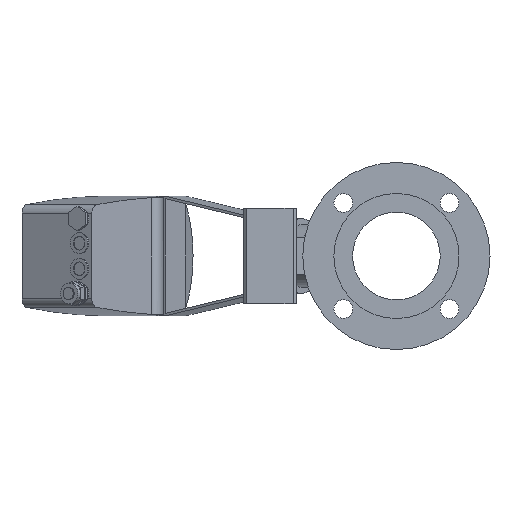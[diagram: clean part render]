
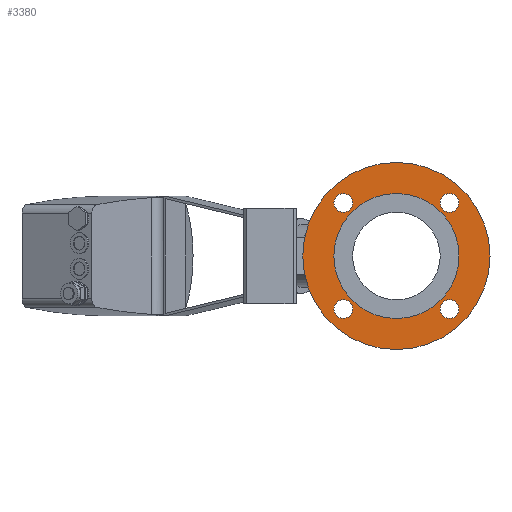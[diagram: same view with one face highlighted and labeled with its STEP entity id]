
A CAD part, left-side view. The second image highlights one B-rep face of the part: STEP entity #3380.
In plain terms, the highlighted planar face has unit normal (-1, 0, 0).
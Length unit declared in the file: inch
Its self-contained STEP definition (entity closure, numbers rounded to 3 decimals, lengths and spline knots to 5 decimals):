
#65=FACE_BOUND('',#467,.T.);
#66=FACE_BOUND('',#468,.T.);
#67=FACE_BOUND('',#469,.T.);
#68=FACE_BOUND('',#470,.T.);
#69=FACE_BOUND('',#471,.T.);
#142=PLANE('',#3687);
#275=FACE_OUTER_BOUND('',#466,.T.);
#466=EDGE_LOOP('',(#2343,#2344));
#467=EDGE_LOOP('',(#2345));
#468=EDGE_LOOP('',(#2346));
#469=EDGE_LOOP('',(#2347));
#470=EDGE_LOOP('',(#2348));
#471=EDGE_LOOP('',(#2349,#2350));
#1151=CIRCLE('',#3594,0.375);
#1153=CIRCLE('',#3597,0.375);
#1155=CIRCLE('',#3600,0.375);
#1157=CIRCLE('',#3603,0.375);
#1202=CIRCLE('',#3688,3.74);
#1203=CIRCLE('',#3689,3.74);
#1204=CIRCLE('',#3690,2.5);
#1205=CIRCLE('',#3691,2.5);
#1349=VERTEX_POINT('',#5035);
#1351=VERTEX_POINT('',#5041);
#1353=VERTEX_POINT('',#5047);
#1355=VERTEX_POINT('',#5053);
#1428=VERTEX_POINT('',#5401);
#1429=VERTEX_POINT('',#5402);
#1430=VERTEX_POINT('',#5405);
#1431=VERTEX_POINT('',#5406);
#1666=EDGE_CURVE('',#1349,#1349,#1151,.T.);
#1669=EDGE_CURVE('',#1351,#1351,#1153,.T.);
#1672=EDGE_CURVE('',#1353,#1353,#1155,.T.);
#1675=EDGE_CURVE('',#1355,#1355,#1157,.T.);
#1780=EDGE_CURVE('',#1428,#1429,#1202,.T.);
#1781=EDGE_CURVE('',#1429,#1428,#1203,.T.);
#1782=EDGE_CURVE('',#1430,#1431,#1204,.T.);
#1783=EDGE_CURVE('',#1431,#1430,#1205,.T.);
#2343=ORIENTED_EDGE('',*,*,#1780,.F.);
#2344=ORIENTED_EDGE('',*,*,#1781,.F.);
#2345=ORIENTED_EDGE('',*,*,#1666,.T.);
#2346=ORIENTED_EDGE('',*,*,#1669,.T.);
#2347=ORIENTED_EDGE('',*,*,#1672,.T.);
#2348=ORIENTED_EDGE('',*,*,#1675,.T.);
#2349=ORIENTED_EDGE('',*,*,#1782,.T.);
#2350=ORIENTED_EDGE('',*,*,#1783,.T.);
#3380=ADVANCED_FACE('',(#275,#65,#66,#67,#68,#69),#142,.F.);
#3594=AXIS2_PLACEMENT_3D('',#5036,#3995,#3996);
#3597=AXIS2_PLACEMENT_3D('',#5042,#4002,#4003);
#3600=AXIS2_PLACEMENT_3D('',#5048,#4009,#4010);
#3603=AXIS2_PLACEMENT_3D('',#5054,#4016,#4017);
#3687=AXIS2_PLACEMENT_3D('',#5400,#4238,#4239);
#3688=AXIS2_PLACEMENT_3D('',#5403,#4240,#4241);
#3689=AXIS2_PLACEMENT_3D('',#5404,#4242,#4243);
#3690=AXIS2_PLACEMENT_3D('',#5407,#4244,#4245);
#3691=AXIS2_PLACEMENT_3D('',#5408,#4246,#4247);
#3995=DIRECTION('center_axis',(1.,0.,0.));
#3996=DIRECTION('ref_axis',(0.,1.,0.));
#4002=DIRECTION('center_axis',(1.,0.,0.));
#4003=DIRECTION('ref_axis',(0.,0.,-1.));
#4009=DIRECTION('center_axis',(1.,0.,0.));
#4010=DIRECTION('ref_axis',(0.,-1.,0.));
#4016=DIRECTION('center_axis',(1.,0.,0.));
#4017=DIRECTION('ref_axis',(0.,0.,1.));
#4238=DIRECTION('center_axis',(1.,0.,0.));
#4239=DIRECTION('ref_axis',(0.,0.,-1.));
#4240=DIRECTION('center_axis',(1.,0.,0.));
#4241=DIRECTION('ref_axis',(0.,0.,-1.));
#4242=DIRECTION('center_axis',(1.,0.,0.));
#4243=DIRECTION('ref_axis',(0.,0.,-1.));
#4244=DIRECTION('center_axis',(1.,0.,0.));
#4245=DIRECTION('ref_axis',(0.,0.,-1.));
#4246=DIRECTION('center_axis',(1.,0.,0.));
#4247=DIRECTION('ref_axis',(0.,0.,-1.));
#5035=CARTESIAN_POINT('',(-6.04,-2.49632,-2.12132));
#5036=CARTESIAN_POINT('Origin',(-6.04,-2.12132,-2.12132));
#5041=CARTESIAN_POINT('',(-6.04,-2.12132,2.49632));
#5042=CARTESIAN_POINT('Origin',(-6.04,-2.12132,2.12132));
#5047=CARTESIAN_POINT('',(-6.04,2.49632,2.12132));
#5048=CARTESIAN_POINT('Origin',(-6.04,2.12132,2.12132));
#5053=CARTESIAN_POINT('',(-6.04,2.12132,-2.49632));
#5054=CARTESIAN_POINT('Origin',(-6.04,2.12132,-2.12132));
#5400=CARTESIAN_POINT('Origin',(-6.04,2.5,0.));
#5401=CARTESIAN_POINT('',(-6.04,3.74,0.));
#5402=CARTESIAN_POINT('',(-6.04,-3.74,0.));
#5403=CARTESIAN_POINT('Origin',(-6.04,0.,0.));
#5404=CARTESIAN_POINT('Origin',(-6.04,0.,0.));
#5405=CARTESIAN_POINT('',(-6.04,2.5,0.));
#5406=CARTESIAN_POINT('',(-6.04,-2.5,0.));
#5407=CARTESIAN_POINT('Origin',(-6.04,0.,0.));
#5408=CARTESIAN_POINT('Origin',(-6.04,0.,0.));
